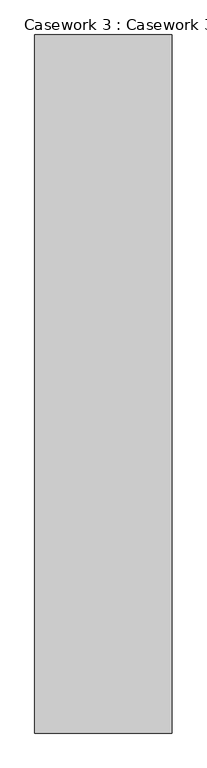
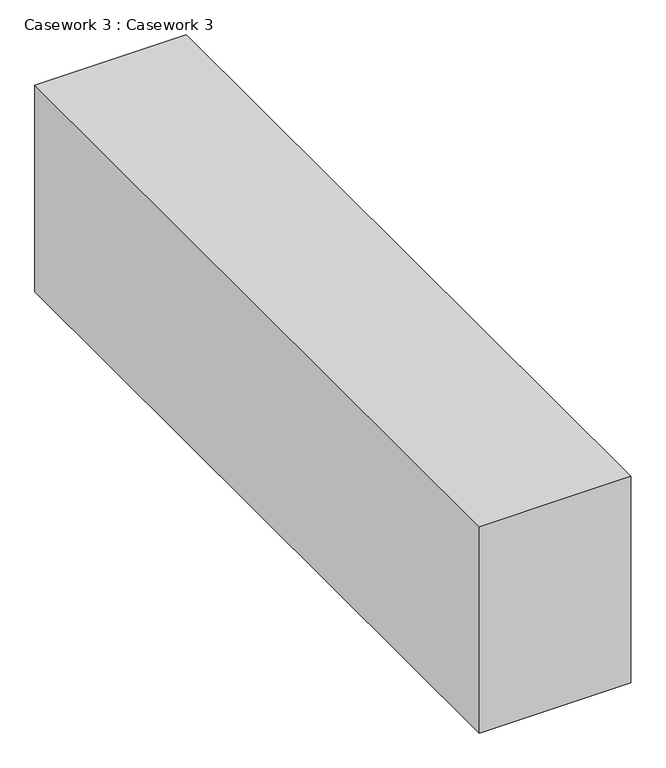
"""IFC4 building model written with IfcOpenShell, lengths in millimetres: furniture geometry, Casework 3 : Casework 3."""

from ifc_helpers import new_model, si_unit, frame, origin, place, context, project, spatial, polyline, outline, extrude, source, transform, mapped, element, save


def casework_3_casework_3_68b1cbf8(model_context):
    return source(origin(), model_context, "Body", "SweptSolid", [
        extrude(outline(polyline([(3822.7, 3390.9), (3822.7, 165.1), (3187.7, 165.1), (3187.7, 3390.9), (3822.7, 3390.9)])), frame((0.0, 0.0, 3348.0), z_axis=(0.0, 0.0, 1.0), x_axis=(1.0, 0.0, 0.0)), (0.0, 0.0, 1.0), 914.4),
    ])


if __name__ == "__main__":
    model = new_model("IFC4")
    model_context = context("Model", 3, world=origin())
    ifc_project = project(units=[si_unit("LENGTHUNIT", "METRE", prefix="MILLI")], contexts=[model_context])
    site = spatial("IfcSite", under=ifc_project)
    building = spatial("IfcBuilding", under=site)
    placement = place(None, origin())
    casework_3_casework_3_shape = casework_3_casework_3_68b1cbf8(model_context)
    element("IfcFurniture", 1, ObjectType="Casework 3 : Casework 3", at=placement, inside=building, context=model_context, shape_type="MappedRepresentation", body=[
        mapped(casework_3_casework_3_shape, transform((0.0, 0.0, 0.0), x_axis=(1.0, 0.0, 0.0), y_axis=(0.0, 1.0, 0.0), z_axis=(0.0, 0.0, 1.0))),
    ])
    save(model, "model.ifc")
